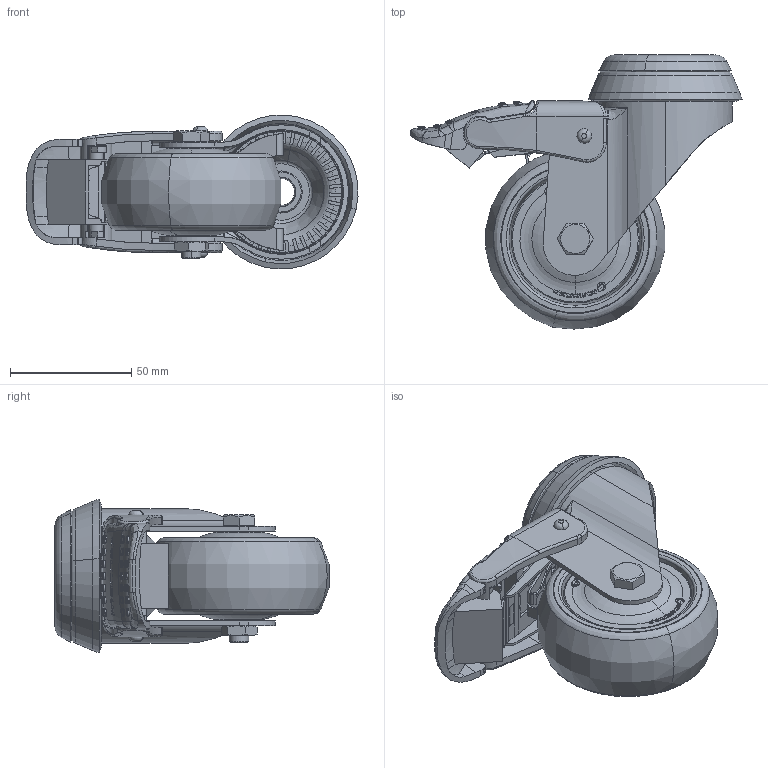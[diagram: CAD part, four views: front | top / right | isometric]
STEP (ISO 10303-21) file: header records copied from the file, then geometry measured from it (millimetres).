
FILE_DESCRIPTION (( 'STEP AP203' ), '1' );
FILE_NAME ('301543_STEP.STEP', '2013-07-29T11:02:26', ( 'admin' ), ( 'Hewlett-Packard Company' ), 'SwSTEP 2.0', 'SolidWorks 2011', '' );
FILE_SCHEMA (( 'CONFIG_CONTROL_DESIGN' ));
Length unit declared in the file: millimetre
Products named in the file (1): 301543_STEP
Bounding box: 136.72 x 112.87 x 63.32 mm (x, y, z)
Volume: 159355.8 mm3; surface area: 114958 mm2
Topology: 18 solids, 18 shells, 2197 faces, 6001 edges, 3894 vertices
Faces by surface type: plane 1083, cylinder 460, bspline 423, torus 142, cone 87, sphere 2
Entity records: 98039 total; most frequent: CARTESIAN_POINT 47128, ORIENTED_EDGE 11988, DIRECTION 8647, EDGE_CURVE 5994, VERTEX_POINT 3894, AXIS2_PLACEMENT_3D 3009, LINE 2629, VECTOR 2629
